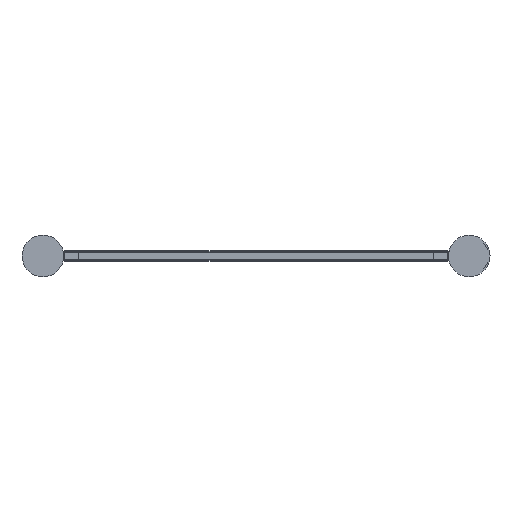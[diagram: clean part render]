
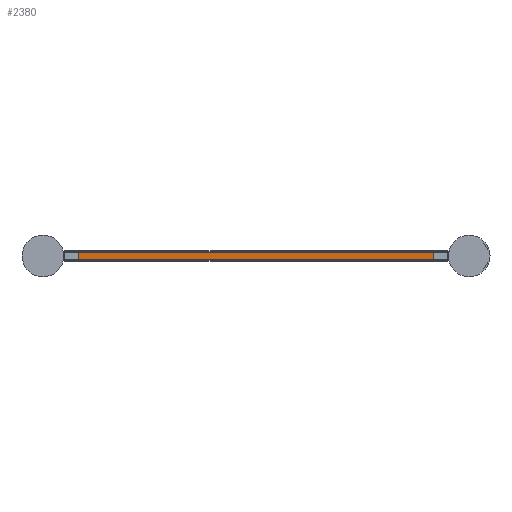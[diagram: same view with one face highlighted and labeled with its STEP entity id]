
A CAD part, front view. The second image highlights one B-rep face of the part: STEP entity #2380.
In plain terms, the highlighted planar face has unit normal (0, -1, 0).
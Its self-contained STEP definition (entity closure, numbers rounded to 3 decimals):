
#177 = AXIS2_PLACEMENT_3D ( 'NONE', #1361, #9597, #4883 ) ;
#411 = PLANE ( 'NONE',  #177 ) ;
#853 = CARTESIAN_POINT ( 'NONE',  ( 380.5, -12.7, 8.4 ) ) ;
#1245 = VERTEX_POINT ( 'NONE', #853 ) ;
#1361 = CARTESIAN_POINT ( 'NONE',  ( -410.5, -12.7, -8.4 ) ) ;
#1544 = VERTEX_POINT ( 'NONE', #9299 ) ;
#1555 = CARTESIAN_POINT ( 'NONE',  ( -410.5, -12.7, 8.4 ) ) ;
#2071 = EDGE_CURVE ( 'NONE', #1245, #4794, #6747, .T. ) ;
#2340 = CARTESIAN_POINT ( 'NONE',  ( 380.5, -12.7, 8.4 ) ) ;
#2380 = ADVANCED_FACE ( 'NONE', ( #4054 ), #411, .F. ) ;
#2576 = ORIENTED_EDGE ( 'NONE', *, *, #6468, .T. ) ;
#2595 = CARTESIAN_POINT ( 'NONE',  ( -380.5, -12.7, 8.4 ) ) ;
#2641 = DIRECTION ( 'NONE',  ( 1., 0., 0. ) ) ;
#3368 = LINE ( 'NONE', #11599, #6879 ) ;
#3541 = LINE ( 'NONE', #2595, #11812 ) ;
#4054 = FACE_OUTER_BOUND ( 'NONE', #9859, .T. ) ;
#4191 = LINE ( 'NONE', #1555, #9972 ) ;
#4325 = DIRECTION ( 'NONE',  ( 0., 0., -1. ) ) ;
#4365 = EDGE_CURVE ( 'NONE', #9467, #4794, #3368, .T. ) ;
#4794 = VERTEX_POINT ( 'NONE', #6420 ) ;
#4883 = DIRECTION ( 'NONE',  ( 0., 0., -1. ) ) ;
#5849 = DIRECTION ( 'NONE',  ( 0., 0., -1. ) ) ;
#6420 = CARTESIAN_POINT ( 'NONE',  ( 380.5, -12.7, -8.4 ) ) ;
#6468 = EDGE_CURVE ( 'NONE', #1544, #9467, #3541, .T. ) ;
#6747 = LINE ( 'NONE', #2340, #8762 ) ;
#6879 = VECTOR ( 'NONE', #2641, 1000. ) ;
#7829 = DIRECTION ( 'NONE',  ( 1., 0., 0. ) ) ;
#8136 = EDGE_CURVE ( 'NONE', #1544, #1245, #4191, .T. ) ;
#8762 = VECTOR ( 'NONE', #5849, 1000. ) ;
#9117 = ORIENTED_EDGE ( 'NONE', *, *, #4365, .T. ) ;
#9299 = CARTESIAN_POINT ( 'NONE',  ( -380.5, -12.7, 8.4 ) ) ;
#9457 = CARTESIAN_POINT ( 'NONE',  ( -380.5, -12.7, -8.4 ) ) ;
#9467 = VERTEX_POINT ( 'NONE', #9457 ) ;
#9597 = DIRECTION ( 'NONE',  ( 0., 1., 0. ) ) ;
#9785 = ORIENTED_EDGE ( 'NONE', *, *, #2071, .F. ) ;
#9859 = EDGE_LOOP ( 'NONE', ( #10791, #2576, #9117, #9785 ) ) ;
#9972 = VECTOR ( 'NONE', #7829, 1000. ) ;
#10791 = ORIENTED_EDGE ( 'NONE', *, *, #8136, .F. ) ;
#11599 = CARTESIAN_POINT ( 'NONE',  ( -410.5, -12.7, -8.4 ) ) ;
#11812 = VECTOR ( 'NONE', #4325, 1000. ) ;
